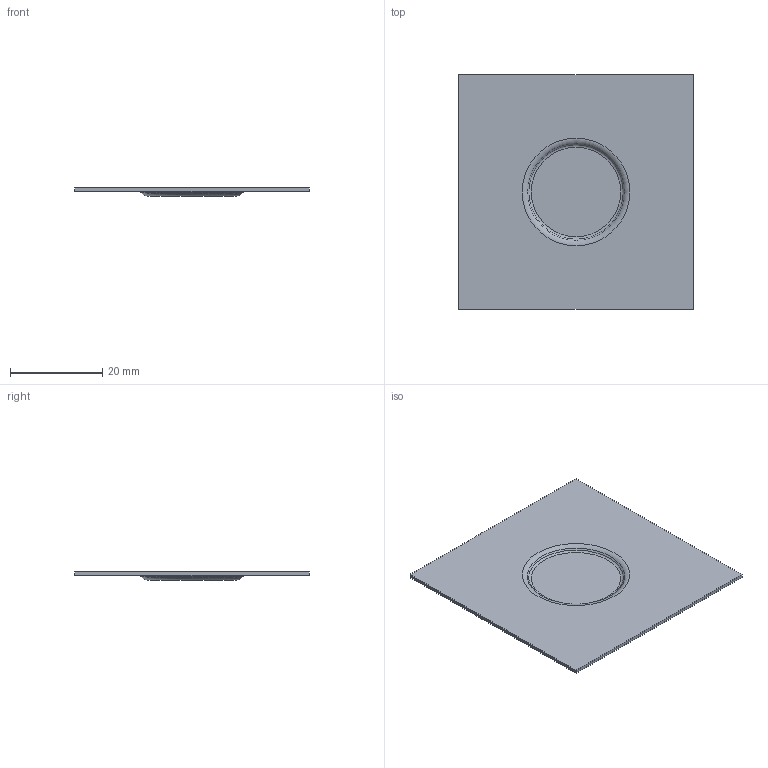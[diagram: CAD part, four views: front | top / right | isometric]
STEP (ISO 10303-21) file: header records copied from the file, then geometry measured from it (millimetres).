
FILE_DESCRIPTION((''),'1');
FILE_NAME('C:/Users/robertnolte/Desktop/WT#202-9245.stp','2012-03-29T18:47:19',(''),(''),'Spatial Interop R21 SP3','Kubotek KeyCreator 2011 V10.5.0 (24766)',' ');
FILE_SCHEMA(('CONFIG_CONTROL_DESIGN'));
Length unit declared in the file: inch
Products named in the file (1): 1
Bounding box: 50.8 x 50.8 x 1.75 mm (x, y, z)
Volume: 1982.2 mm3; surface area: 5357.6 mm2
Topology: 1 solids, 1 shells, 14 faces, 28 edges, 18 vertices
Faces by surface type: plane 8, torus 4, cone 2
Entity records: 360 total; most frequent: DIRECTION 58, CARTESIAN_POINT 51, ORIENTED_EDGE 40, AXIS2_PLACEMENT_3D 23, EDGE_LOOP 22, EDGE_CURVE 20, VERTEX_POINT 16, ADVANCED_FACE 14
